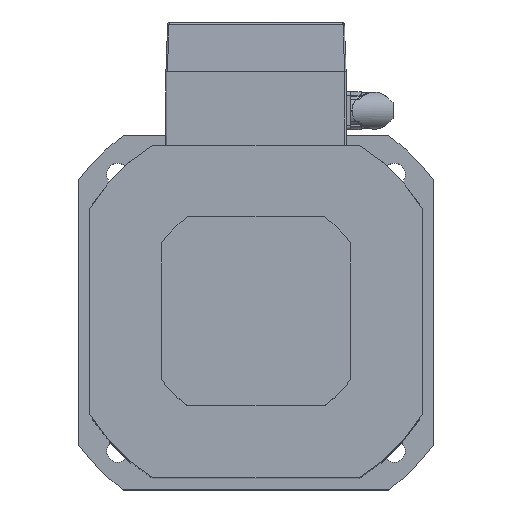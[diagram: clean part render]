
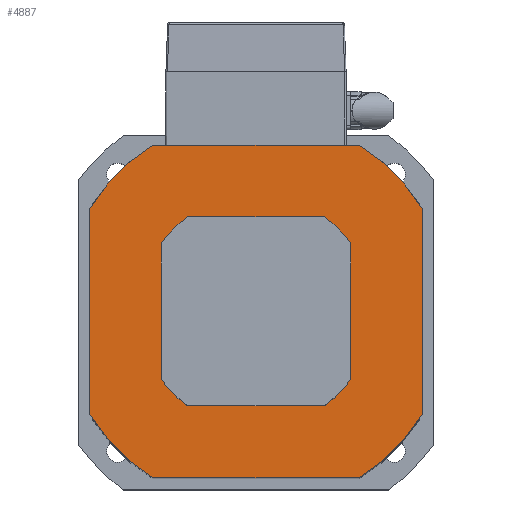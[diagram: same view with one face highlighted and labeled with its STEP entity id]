
A CAD part, top view. The second image highlights one B-rep face of the part: STEP entity #4887.
In plain terms, the highlighted planar face has unit normal (0, 0, 1).
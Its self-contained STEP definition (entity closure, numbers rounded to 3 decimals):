
#975=PLANE('',#5159);
#1096=VECTOR('',#5673,1.);
#1100=VECTOR('',#5684,1.);
#1104=VECTOR('',#5695,1.);
#1106=VECTOR('',#5698,1.);
#1397=LINE('',#6880,#1096);
#1401=LINE('',#6892,#1100);
#1405=LINE('',#6904,#1104);
#1407=LINE('',#6908,#1106);
#1696=VERTEX_POINT('',#6871);
#1697=VERTEX_POINT('',#6873);
#1699=VERTEX_POINT('',#6879);
#1701=VERTEX_POINT('',#6885);
#1703=VERTEX_POINT('',#6891);
#1705=VERTEX_POINT('',#6897);
#1707=VERTEX_POINT('',#6903);
#1709=VERTEX_POINT('',#6909);
#2124=CIRCLE('',#5144,132.5);
#2126=CIRCLE('',#5148,132.5);
#2128=CIRCLE('',#5152,132.5);
#2130=CIRCLE('',#5158,132.5);
#2335=EDGE_CURVE('',#1697,#1696,#2124,.T.);
#2339=EDGE_CURVE('',#1696,#1699,#1397,.T.);
#2342=EDGE_CURVE('',#1699,#1701,#2126,.T.);
#2345=EDGE_CURVE('',#1701,#1703,#1401,.T.);
#2348=EDGE_CURVE('',#1703,#1705,#2128,.T.);
#2351=EDGE_CURVE('',#1705,#1707,#1405,.T.);
#2353=EDGE_CURVE('',#1709,#1697,#1407,.T.);
#2356=EDGE_CURVE('',#1707,#1709,#2130,.T.);
#2996=ORIENTED_EDGE('',*,*,#2351,.T.);
#2997=ORIENTED_EDGE('',*,*,#2356,.T.);
#2998=ORIENTED_EDGE('',*,*,#2353,.T.);
#2999=ORIENTED_EDGE('',*,*,#2335,.T.);
#3000=ORIENTED_EDGE('',*,*,#2339,.T.);
#3001=ORIENTED_EDGE('',*,*,#2342,.T.);
#3002=ORIENTED_EDGE('',*,*,#2345,.T.);
#3003=ORIENTED_EDGE('',*,*,#2348,.T.);
#4211=EDGE_LOOP('',(#2996,#2997,#2998,#2999,#3000,#3001,#3002,#3003));
#4549=FACE_BOUND('',#4211,.T.);
#4887=ADVANCED_FACE('',(#4549),#975,.T.);
#5144=AXIS2_PLACEMENT_3D('',#6872,#5667,#5668);
#5148=AXIS2_PLACEMENT_3D('',#6886,#5679,#5680);
#5152=AXIS2_PLACEMENT_3D('',#6898,#5690,#5691);
#5158=AXIS2_PLACEMENT_3D('',#6914,#5705,#5706);
#5159=AXIS2_PLACEMENT_3D('',#6915,#5707,$);
#5667=DIRECTION('',(0.,0.,1.));
#5668=DIRECTION('',(132.5,0.,0.));
#5673=DIRECTION('',(1.,0.,0.));
#5679=DIRECTION('',(0.,0.,1.));
#5680=DIRECTION('',(132.5,0.,0.));
#5684=DIRECTION('',(0.,1.,0.));
#5690=DIRECTION('',(0.,0.,1.));
#5691=DIRECTION('',(132.5,0.,0.));
#5695=DIRECTION('',(-1.,0.,0.));
#5698=DIRECTION('',(0.,-1.,0.));
#5705=DIRECTION('',(0.,0.,1.));
#5706=DIRECTION('',(132.5,0.,0.));
#5707=DIRECTION('',(0.,0.,1.));
#6871=CARTESIAN_POINT('',(-70.,-112.5,0.));
#6872=CARTESIAN_POINT('',(0.,0.,0.));
#6873=CARTESIAN_POINT('',(-112.5,-70.,0.));
#6879=CARTESIAN_POINT('',(70.,-112.5,0.));
#6880=CARTESIAN_POINT('',(-70.,-112.5,0.));
#6885=CARTESIAN_POINT('',(112.5,-70.,0.));
#6886=CARTESIAN_POINT('',(0.,0.,0.));
#6891=CARTESIAN_POINT('',(112.5,70.,0.));
#6892=CARTESIAN_POINT('',(112.5,-70.,0.));
#6897=CARTESIAN_POINT('',(70.,112.5,0.));
#6898=CARTESIAN_POINT('',(0.,0.,0.));
#6903=CARTESIAN_POINT('',(-70.,112.5,0.));
#6904=CARTESIAN_POINT('',(70.,112.5,0.));
#6908=CARTESIAN_POINT('',(-112.5,70.,0.));
#6909=CARTESIAN_POINT('',(-112.5,70.,0.));
#6914=CARTESIAN_POINT('',(0.,0.,0.));
#6915=CARTESIAN_POINT('',(0.,0.,0.));
